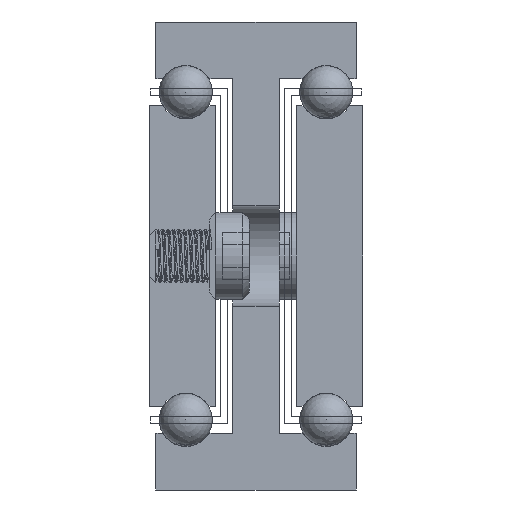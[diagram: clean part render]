
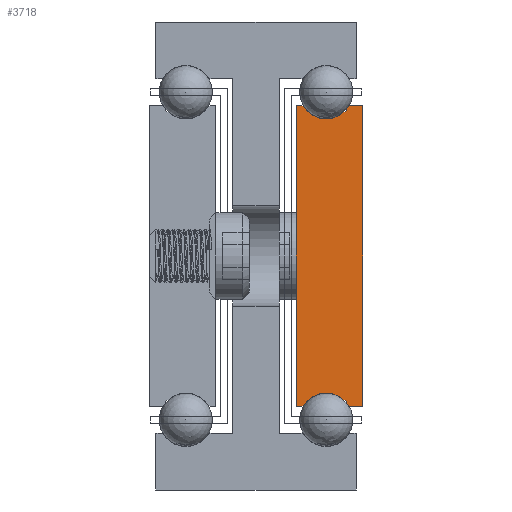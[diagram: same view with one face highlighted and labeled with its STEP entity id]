
A CAD part, front view. The second image highlights one B-rep face of the part: STEP entity #3718.
In plain terms, the highlighted planar face has unit normal (0, -1, 0).
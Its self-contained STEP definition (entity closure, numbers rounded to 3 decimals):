
#630=CIRCLE('',#4181,4.);
#632=CIRCLE('',#4187,4.);
#844=FACE_OUTER_BOUND('',#1188,.T.);
#1188=EDGE_LOOP('',(#3204,#3205,#3206,#3207,#3208,#3209,#3210,#3211));
#1424=LINE('',#6202,#1636);
#1428=LINE('',#6210,#1640);
#1432=LINE('',#6222,#1644);
#1435=LINE('',#6228,#1647);
#1438=LINE('',#6234,#1650);
#1442=LINE('',#6245,#1654);
#1636=VECTOR('',#5076,1.);
#1640=VECTOR('',#5082,1.);
#1644=VECTOR('',#5094,1.);
#1647=VECTOR('',#5099,1.);
#1650=VECTOR('',#5104,1.);
#1654=VECTOR('',#5116,1.);
#2064=VERTEX_POINT('',#6200);
#2065=VERTEX_POINT('',#6201);
#2068=VERTEX_POINT('',#6209);
#2070=VERTEX_POINT('',#6215);
#2072=VERTEX_POINT('',#6221);
#2074=VERTEX_POINT('',#6227);
#2076=VERTEX_POINT('',#6233);
#2078=VERTEX_POINT('',#6239);
#2506=EDGE_CURVE('',#2064,#2065,#1424,.T.);
#2510=EDGE_CURVE('',#2065,#2068,#1428,.T.);
#2513=EDGE_CURVE('',#2068,#2070,#630,.T.);
#2516=EDGE_CURVE('',#2070,#2072,#1432,.T.);
#2519=EDGE_CURVE('',#2072,#2074,#1435,.T.);
#2522=EDGE_CURVE('',#2074,#2076,#1438,.T.);
#2525=EDGE_CURVE('',#2076,#2078,#632,.T.);
#2528=EDGE_CURVE('',#2078,#2064,#1442,.T.);
#3204=ORIENTED_EDGE('',*,*,#2528,.F.);
#3205=ORIENTED_EDGE('',*,*,#2525,.F.);
#3206=ORIENTED_EDGE('',*,*,#2522,.F.);
#3207=ORIENTED_EDGE('',*,*,#2519,.F.);
#3208=ORIENTED_EDGE('',*,*,#2516,.F.);
#3209=ORIENTED_EDGE('',*,*,#2513,.F.);
#3210=ORIENTED_EDGE('',*,*,#2510,.F.);
#3211=ORIENTED_EDGE('',*,*,#2506,.F.);
#3548=PLANE('',#4190);
#3718=ADVANCED_FACE('',(#844),#3548,.T.);
#4181=AXIS2_PLACEMENT_3D('',#6216,#5087,#5088);
#4187=AXIS2_PLACEMENT_3D('',#6240,#5109,#5110);
#4190=AXIS2_PLACEMENT_3D('',#6247,#5118,#5119);
#5076=DIRECTION('',(0.,0.,-1.));
#5082=DIRECTION('',(-1.,0.,0.));
#5087=DIRECTION('center_axis',(0.,-1.,0.));
#5088=DIRECTION('ref_axis',(0.866,0.,0.5));
#5094=DIRECTION('',(-1.,0.,0.));
#5099=DIRECTION('',(0.,0.,1.));
#5104=DIRECTION('',(1.,0.,0.));
#5109=DIRECTION('center_axis',(0.,-1.,0.));
#5110=DIRECTION('ref_axis',(-0.866,0.,-0.5));
#5116=DIRECTION('',(1.,0.,0.));
#5118=DIRECTION('center_axis',(0.,-1.,0.));
#5119=DIRECTION('ref_axis',(-1.,0.,0.));
#6200=CARTESIAN_POINT('',(-1776.38,-86.514,572.5));
#6201=CARTESIAN_POINT('',(-1776.38,-86.514,527.5));
#6202=CARTESIAN_POINT('',(-1776.38,-86.514,572.5));
#6209=CARTESIAN_POINT('',(-1778.416,-86.514,527.5));
#6210=CARTESIAN_POINT('',(-1776.38,-86.514,527.5));
#6215=CARTESIAN_POINT('',(-1785.344,-86.514,527.5));
#6216=CARTESIAN_POINT('Origin',(-1781.88,-86.514,525.5));
#6221=CARTESIAN_POINT('',(-1786.38,-86.514,527.5));
#6222=CARTESIAN_POINT('',(-1785.344,-86.514,527.5));
#6227=CARTESIAN_POINT('',(-1786.38,-86.514,572.5));
#6228=CARTESIAN_POINT('',(-1786.38,-86.514,527.5));
#6233=CARTESIAN_POINT('',(-1785.344,-86.514,572.5));
#6234=CARTESIAN_POINT('',(-1786.38,-86.514,572.5));
#6239=CARTESIAN_POINT('',(-1778.416,-86.514,572.5));
#6240=CARTESIAN_POINT('Origin',(-1781.88,-86.514,574.5));
#6245=CARTESIAN_POINT('',(-1778.416,-86.514,572.5));
#6247=CARTESIAN_POINT('Origin',(-1781.374,-86.514,550.));
